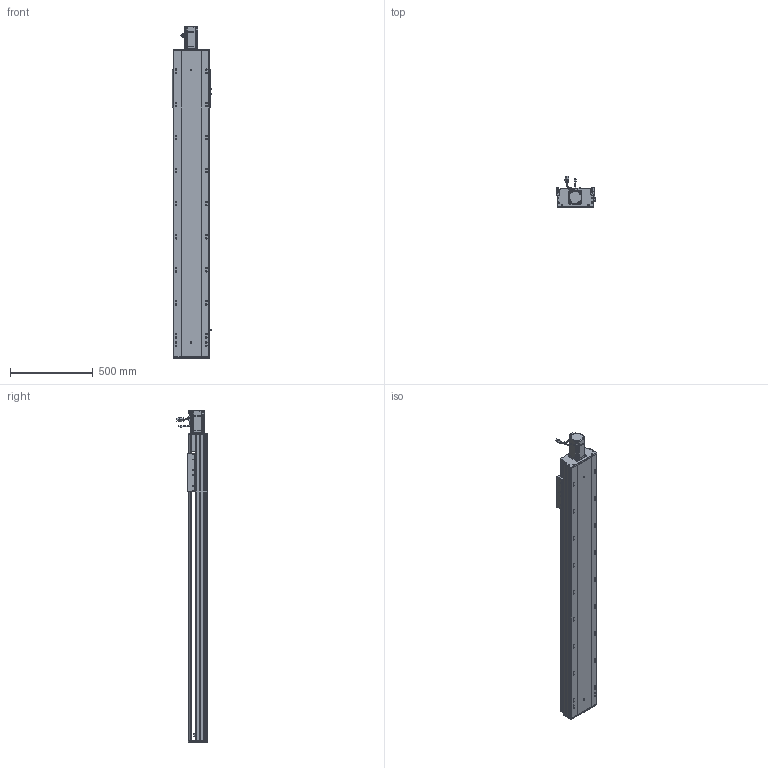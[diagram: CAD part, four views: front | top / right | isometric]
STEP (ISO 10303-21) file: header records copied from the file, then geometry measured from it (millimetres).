
FILE_DESCRIPTION (( 'STEP AP203' ), '1' );
FILE_NAME ('RY220-L2525-300-MK.SLDASM_1450.step', '2022-07-04T02:58:19', ( '' ), ( '' ), 'SwSTEP 2.0', 'SolidWorks 2016', '' );
FILE_SCHEMA (( 'CONFIG_CONTROL_DESIGN' ));
Length unit declared in the file: millimetre
Products named in the file (12): RY220綴裔啣; RY220ヶ裔啣; RY220-俋离672覜茼んえ; 滅袉蝶18-12; RY220电机支撑座FK20（PCD90M6）; RY220-L2525-300-MK.SLDASM_1450; RY220菁釱MK-300_1450; 怢湛750W_ECMA-CX0807ES; RY220-300-奻裔啣-MK_1450; RY220半封闭25-32螺母铝滑块; 滅袉蝶18-15; 覜茼ん672
Assembly tree (15 placements, depth 2):
  RY220-L2525-300-MK.SLDASM_1450
    RY220菁釱MK-300_1450
    RY220电机支撑座FK20（PCD90M6）
    怢湛750W_ECMA-CX0807ES
    滅袉蝶18-12  x2
    RY220ヶ裔啣
    RY220綴裔啣
    覜茼ん672  x3
    RY220半封闭25-32螺母铝滑块
    RY220-300-奻裔啣-MK_1450
    RY220-俋离672覜茼んえ
    滅袉蝶18-15  x2
Bounding box: 238.7 x 187.27 x 2008.3 mm (x, y, z)
Volume: 15281253.5 mm3; surface area: 4381965.8 mm2
Topology: 16 solids, 16 shells, 2312 faces, 6418 edges, 4038 vertices
Faces by surface type: cylinder 1066, plane 907, cone 277, bspline 36, sphere 16, torus 10
Entity records: 76258 total; most frequent: CARTESIAN_POINT 21657, ORIENTED_EDGE 11320, DIRECTION 10775, EDGE_CURVE 5660, AXIS2_PLACEMENT_3D 3821, VERTEX_POINT 3694, LINE 3133, VECTOR 3133
